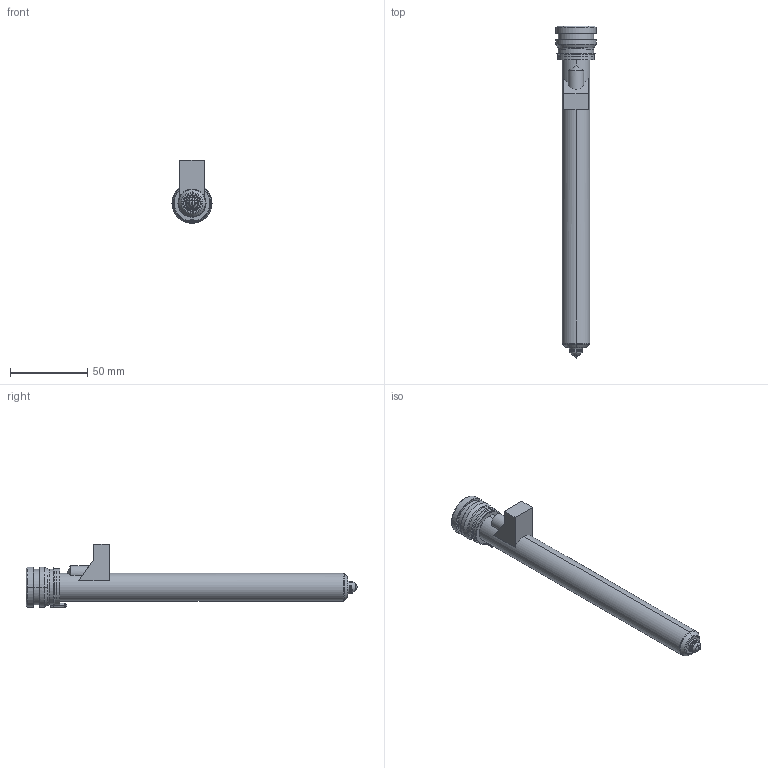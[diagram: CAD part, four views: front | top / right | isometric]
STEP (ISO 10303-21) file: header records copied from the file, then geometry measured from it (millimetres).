
FILE_DESCRIPTION((''),'2;1');
FILE_NAME('MPN-08-24-VX8-196-M','2026-02-05T13:32:01',('UPTIO'),('Thermoplay S.p.A.'),'CREO PARAMETRIC BY PTC INC, 2023494','CREO PARAMETRIC BY PTC INC, 2023494','');
FILE_SCHEMA(('CONFIG_CONTROL_DESIGN','SHAPE_APPEARANCE_LAYERS_GROUPS'));
Length unit declared in the file: millimetre
Products named in the file (1): MPN-08-24-VX8-196-M
Bounding box: 26 x 215.5 x 41.5 mm (x, y, z)
Volume: 39795.1 mm3; surface area: 53640.1 mm2
Topology: 2 solids, 3 shells, 529 faces, 1372 edges, 842 vertices
Faces by surface type: cylinder 174, plane 143, bspline 77, torus 60, cone 60, sphere 9, extrusion 6
Entity records: 27363 total; most frequent: CARTESIAN_POINT 11842, ORIENTED_EDGE 2726, DIRECTION 2495, EDGE_CURVE 1363, AXIS2_PLACEMENT_3D 975, VERTEX_POINT 842, EDGE_LOOP 559, VECTOR 545
